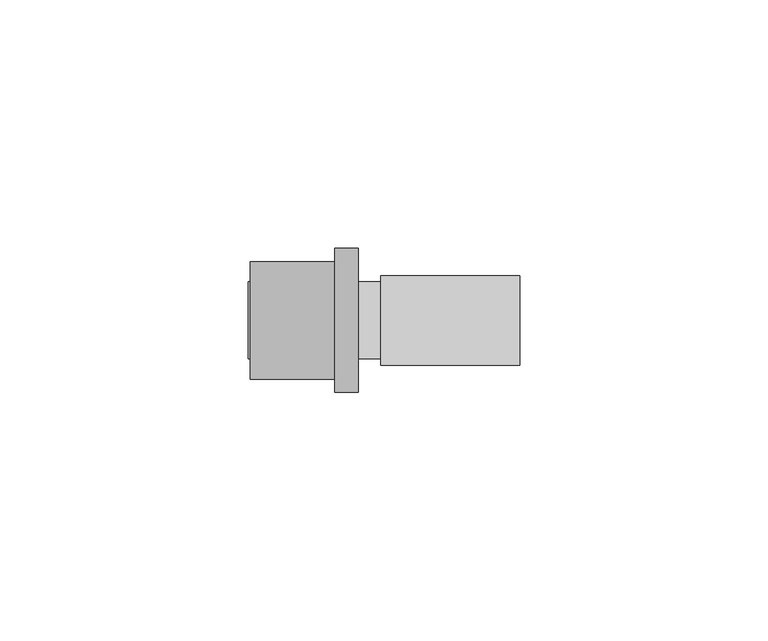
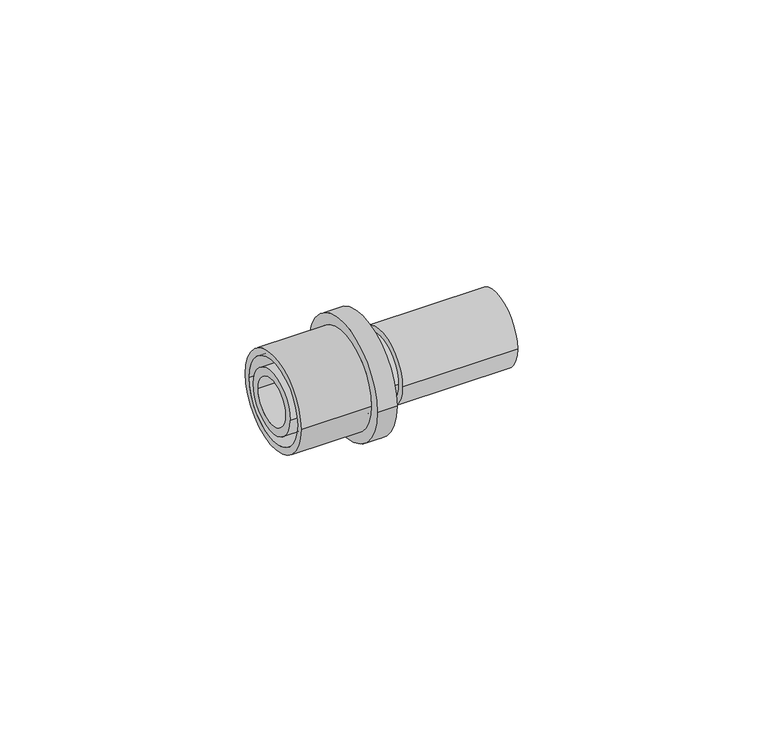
"""IFC4 building model written with IfcOpenShell, lengths in millimetres: pipe fitting geometry, FASTLOC Copper press adapter RX+ : FSL RX+ AT."""

from ifc_helpers import new_model, si_unit, point, frame, origin, origin_2d, place, context, project, spatial, polyline, circle_curve, trimmed, segment, composite_curve, outline, extrude, source, transform, mapped, element, save
from ifc_brep_helpers import plane_surface, cylinder_surface, revolved_surface, advanced_brep


def pipe_fitting_fb4eec36(model_context):
    return source(origin(), model_context, "Body", "SolidModel", [
        advanced_brep(
        [(-9.2, -14.5, 0.0), (-9.2, 14.5, 0.0), (-4.5, 14.5, 0.0), (-4.5, -14.5, 0.0), (-26.2, -11.85, 0.0), (-26.2, 11.85, 0.0), (-9.2, 11.85, 0.0), (-9.2, -11.85, 0.0), (-4.5, -10.15, 0.0), (-4.5, 10.15, 0.0), (-26.2, 10.15, 0.0), (-26.2, -10.15, 0.0)],
        [
            (0, 1, circle_curve(frame((-9.2, 0.0, 0.0), z_axis=(1.0, 0.0, 0.0), x_axis=(0.0, 1.0, 0.0)), 14.5)),
            (1, 2),
            (2, 3, circle_curve(frame((-4.5, 0.0, 0.0), z_axis=(-1.0, 0.0, 0.0), x_axis=(0.0, 1.0, 0.0)), 14.5)),
            (3, 0),
            (4, 5, circle_curve(frame((-26.2, 0.0, 0.0), z_axis=(1.0, 0.0, 0.0), x_axis=(0.0, 1.0, 0.0)), 11.85)),
            (5, 6),
            (6, 7, circle_curve(frame((-9.2, 0.0, 0.0), z_axis=(-1.0, 0.0, 0.0), x_axis=(0.0, 1.0, 0.0)), 11.85)),
            (7, 4),
            (8, 9, circle_curve(frame((-4.5, 0.0, 0.0), z_axis=(1.0, 0.0, 0.0), x_axis=(0.0, 1.0, 0.0)), 10.15)),
            (9, 10),
            (10, 11, circle_curve(frame((-26.2, 0.0, 0.0), z_axis=(-1.0, 0.0, 0.0), x_axis=(0.0, 1.0, 0.0)), 10.15)),
            (11, 8),
            (1, 0, circle_curve(frame((-9.2, 0.0, 0.0), z_axis=(1.0, 0.0, 0.0), x_axis=(0.0, -1.0, 0.0)), 14.5)),
            (3, 2, circle_curve(frame((-4.5, 0.0, 0.0), z_axis=(-1.0, 0.0, 0.0), x_axis=(0.0, -1.0, 0.0)), 14.5)),
            (6, 7, circle_curve(frame((-9.2, 0.0, 0.0), z_axis=(1.0, 0.0, 0.0), x_axis=(0.0, -1.0, 0.0)), 11.85)),
            (5, 4, circle_curve(frame((-26.2, 0.0, 0.0), z_axis=(1.0, 0.0, 0.0), x_axis=(0.0, -1.0, 0.0)), 11.85)),
            (10, 11, circle_curve(frame((-26.2, 0.0, 0.0), z_axis=(1.0, 0.0, 0.0), x_axis=(0.0, -1.0, 0.0)), 10.15)),
            (9, 8, circle_curve(frame((-4.5, 0.0, 0.0), z_axis=(1.0, 0.0, 0.0), x_axis=(0.0, -1.0, 0.0)), 10.15)),
        ],
        [
            cylinder_surface(frame((-4.5, 0.0, 0.0), z_axis=(-1.0, 0.0, 0.0), x_axis=(0.0, 1.0, 0.0)), 14.5),
            cylinder_surface(frame((-4.5, 0.0, 0.0), z_axis=(-1.0, 0.0, 0.0), x_axis=(0.0, 1.0, 0.0)), 11.85),
            revolved_surface(polyline([(-26.2, 10.15, 0.0), (-4.5, 10.15, 0.0)]), (-4.5, 0.0, 0.0), (-1.0, 0.0, 0.0)),
            cylinder_surface(frame((-4.5, 0.0, 0.0), z_axis=(-1.0, 0.0, 0.0), x_axis=(0.0, -1.0, 0.0)), 14.5),
            plane_surface(frame((-9.2, 0.0, 0.0), z_axis=(-1.0, 0.0, 0.0), x_axis=(0.0, -1.0, 0.0))),
            cylinder_surface(frame((-4.5, 0.0, 0.0), z_axis=(-1.0, 0.0, 0.0), x_axis=(0.0, -1.0, 0.0)), 11.85),
            plane_surface(frame((-26.2, 0.0, 0.0), z_axis=(-1.0, 0.0, 0.0), x_axis=(0.0, -1.0, 0.0))),
            revolved_surface(polyline([(-26.2, -10.15, 0.0), (-4.5, -10.15, 0.0)]), (-4.5, 0.0, 0.0), (-1.0, 0.0, 0.0)),
            plane_surface(frame((-4.5, 0.0, 0.0), z_axis=(1.0, 0.0, 0.0), x_axis=(0.0, -1.0, 0.0))),
        ],
        [
            (0, [[1, 2, 3, 4]]),
            (1, [[5, 6, 7, 8]]),
            (2, [[9, 10, 11, 12]]),
            (3, [[13, -4, 14, -2]]),
            (4, [[-13, -1], [15, -7]]),
            (5, [[16, -8, -15, -6]]),
            (6, [[-16, -5], [17, -11]]),
            (7, [[18, -12, -17, -10]]),
            (8, [[-14, -3], [-18, -9]]),
        ],
    ),
        extrude(outline(composite_curve([segment(trimmed(circle_curve(origin_2d(), 9.0), [point((-9.0, 0.0))], [point((9.0, 0.0))], False, "CARTESIAN"), True, "CONTINUOUS"), segment(trimmed(circle_curve(origin_2d(), 9.0), [point((9.0, 0.0))], [point((-9.0, 0.0))], False, "CARTESIAN"), True, "CONTINUOUS")], self_intersect=False), holes=[composite_curve([segment(trimmed(circle_curve(origin_2d(), 6.75), [point((-6.75, 0.0))], [point((6.75, 0.0))], True, "CARTESIAN"), True, "CONTINUOUS"), segment(trimmed(circle_curve(origin_2d(), 6.75), [point((6.75, 0.0))], [point((-6.75, 0.0))], True, "CARTESIAN"), True, "CONTINUOUS")], self_intersect=False)]), frame((0.0, 0.0, 0.0), z_axis=(1.0, 0.0, 0.0), x_axis=(0.0, 1.0, 0.0)), (0.0, 0.0, 1.0), 28.0),
        advanced_brep(
        [(-9.2, 7.75, 0.0), (-9.2, -7.75, 0.0), (-26.6, -7.75, 0.0), (-26.6, 7.75, 0.0), (-6.5, 8.8, 0.0), (-6.5, -8.8, 0.0), (-9.2, -8.8, 0.0), (-9.2, 8.8, 0.0), (0.0, 7.75, 0.0), (0.0, -7.75, 0.0), (-6.5, -7.75, 0.0), (-6.5, 7.75, 0.0), (-26.6, 5.75, 0.0), (-26.6, -5.75, 0.0), (0.0, -5.75, 0.0), (0.0, 5.75, 0.0)],
        [
            (0, 1, circle_curve(frame((-9.2, 0.0, 0.0), z_axis=(-1.0, 0.0, 0.0), x_axis=(0.0, -1.0, 0.0)), 7.75)),
            (1, 2),
            (2, 3, circle_curve(frame((-26.6, 0.0, 0.0), z_axis=(1.0, 0.0, 0.0), x_axis=(0.0, -1.0, 0.0)), 7.75)),
            (3, 0),
            (4, 5, circle_curve(frame((-6.5, 0.0, 0.0), z_axis=(-1.0, 0.0, 0.0), x_axis=(0.0, -1.0, 0.0)), 8.8)),
            (5, 6),
            (6, 7, circle_curve(frame((-9.2, 0.0, 0.0), z_axis=(1.0, 0.0, 0.0), x_axis=(0.0, -1.0, 0.0)), 8.8)),
            (7, 4),
            (8, 9, circle_curve(frame((0.0, 0.0, 0.0), z_axis=(-1.0, 0.0, 0.0), x_axis=(0.0, -1.0, 0.0)), 7.75)),
            (9, 10),
            (10, 11, circle_curve(frame((-6.5, 0.0, 0.0), z_axis=(1.0, 0.0, 0.0), x_axis=(0.0, -1.0, 0.0)), 7.75)),
            (11, 8),
            (12, 13, circle_curve(frame((-26.6, 0.0, 0.0), z_axis=(-1.0, 0.0, 0.0), x_axis=(0.0, -1.0, 0.0)), 5.75)),
            (13, 14),
            (14, 15, circle_curve(frame((0.0, 0.0, 0.0), z_axis=(1.0, 0.0, 0.0), x_axis=(0.0, -1.0, 0.0)), 5.75)),
            (15, 12),
            (2, 3, circle_curve(frame((-26.6, 0.0, 0.0), z_axis=(-1.0, 0.0, 0.0), x_axis=(0.0, 1.0, 0.0)), 7.75)),
            (12, 13, circle_curve(frame((-26.6, 0.0, 0.0), z_axis=(1.0, 0.0, 0.0), x_axis=(0.0, 1.0, 0.0)), 5.75)),
            (1, 0, circle_curve(frame((-9.2, 0.0, 0.0), z_axis=(-1.0, 0.0, 0.0), x_axis=(0.0, 1.0, 0.0)), 7.75)),
            (6, 7, circle_curve(frame((-9.2, 0.0, 0.0), z_axis=(-1.0, 0.0, 0.0), x_axis=(0.0, 1.0, 0.0)), 8.8)),
            (5, 4, circle_curve(frame((-6.5, 0.0, 0.0), z_axis=(-1.0, 0.0, 0.0), x_axis=(0.0, 1.0, 0.0)), 8.8)),
            (10, 11, circle_curve(frame((-6.5, 0.0, 0.0), z_axis=(-1.0, 0.0, 0.0), x_axis=(0.0, 1.0, 0.0)), 7.75)),
            (9, 8, circle_curve(frame((0.0, 0.0, 0.0), z_axis=(-1.0, 0.0, 0.0), x_axis=(0.0, 1.0, 0.0)), 7.75)),
            (14, 15, circle_curve(frame((0.0, 0.0, 0.0), z_axis=(-1.0, 0.0, 0.0), x_axis=(0.0, 1.0, 0.0)), 5.75)),
        ],
        [
            cylinder_surface(frame((0.0, 0.0, 0.0), z_axis=(1.0, 0.0, 0.0), x_axis=(0.0, -1.0, 0.0)), 7.75),
            cylinder_surface(frame((0.0, 0.0, 0.0), z_axis=(1.0, 0.0, 0.0), x_axis=(0.0, -1.0, 0.0)), 8.8),
            revolved_surface(polyline([(0.0, -5.75, 0.0), (-26.6, -5.75, 0.0)]), (0.0, 0.0, 0.0), (1.0, 0.0, 0.0)),
            plane_surface(frame((-26.6, 0.0, 0.0), z_axis=(-1.0, 0.0, 0.0), x_axis=(0.0, 1.0, 0.0))),
            cylinder_surface(frame((0.0, 0.0, 0.0), z_axis=(1.0, 0.0, 0.0), x_axis=(0.0, 1.0, 0.0)), 7.75),
            plane_surface(frame((-9.2, 0.0, 0.0), z_axis=(-1.0, 0.0, 0.0), x_axis=(0.0, 1.0, 0.0))),
            cylinder_surface(frame((0.0, 0.0, 0.0), z_axis=(1.0, 0.0, 0.0), x_axis=(0.0, 1.0, 0.0)), 8.8),
            plane_surface(frame((-6.5, 0.0, 0.0), z_axis=(1.0, 0.0, 0.0), x_axis=(0.0, 1.0, 0.0))),
            plane_surface(frame((0.0, 0.0, 0.0), z_axis=(1.0, 0.0, 0.0), x_axis=(0.0, 1.0, 0.0))),
            revolved_surface(polyline([(0.0, 5.75, 0.0), (-26.6, 5.75, 0.0)]), (0.0, 0.0, 0.0), (1.0, 0.0, 0.0)),
        ],
        [
            (0, [[1, 2, 3, 4]]),
            (1, [[5, 6, 7, 8]]),
            (0, [[9, 10, 11, 12]]),
            (2, [[13, 14, 15, 16]]),
            (3, [[17, -3], [18, -13]]),
            (4, [[19, -4, -17, -2]]),
            (5, [[20, -7], [-19, -1]]),
            (6, [[21, -8, -20, -6]]),
            (7, [[-21, -5], [22, -11]]),
            (4, [[23, -12, -22, -10]]),
            (8, [[-23, -9], [24, -15]]),
            (9, [[-18, -16, -24, -14]]),
        ],
    ),
    ])


if __name__ == "__main__":
    model = new_model("IFC4")
    model_context = context("Model", 3, world=origin())
    ifc_project = project(units=[si_unit("LENGTHUNIT", "METRE", prefix="MILLI")], contexts=[model_context])
    site = spatial("IfcSite", under=ifc_project)
    building = spatial("IfcBuilding", under=site)
    placement = place(None, origin())
    pipe_fitting_shape = pipe_fitting_fb4eec36(model_context)
    element("IfcPipeFitting", 1, ObjectType="FASTLOC Copper press adapter RX+ : FSL RX+ AT", at=placement, inside=building, context=model_context, shape_type="MappedRepresentation", body=[
        mapped(pipe_fitting_shape, transform((0.0, 0.0, 0.0), x_axis=(1.0, 0.0, 0.0), y_axis=(0.0, 1.0, 0.0), z_axis=(0.0, 0.0, 1.0))),
    ])
    save(model, "model.ifc")
